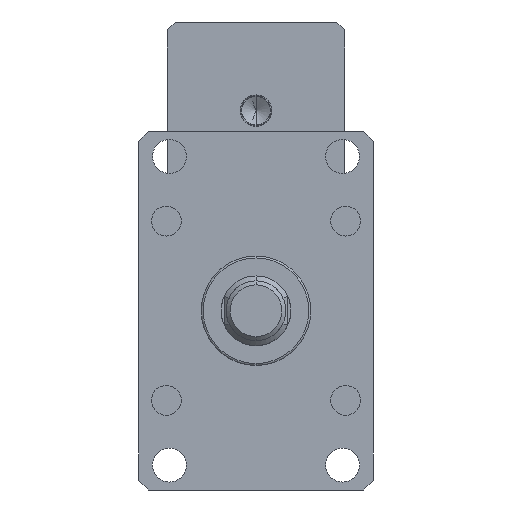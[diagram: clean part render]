
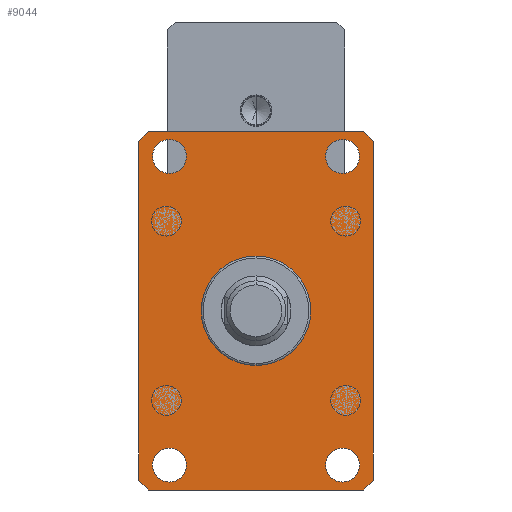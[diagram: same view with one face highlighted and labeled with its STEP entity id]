
A CAD part, front view. The second image highlights one B-rep face of the part: STEP entity #9044.
In plain terms, the highlighted planar face has unit normal (0, -1, 0).
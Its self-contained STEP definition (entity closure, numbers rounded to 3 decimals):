
#29 = AXIS2_PLACEMENT_3D ( 'NONE', #6063, #245, #7022 ) ;
#93 = FACE_OUTER_BOUND ( 'NONE', #8447, .T. ) ;
#164 = AXIS2_PLACEMENT_3D ( 'NONE', #5643, #12425, #6610 ) ;
#182 = CARTESIAN_POINT ( 'NONE',  ( -59., -55., -85. ) ) ;
#245 = DIRECTION ( 'NONE',  ( 0., -1., 0. ) ) ;
#249 = CARTESIAN_POINT ( 'NONE',  ( 54., -55., -90. ) ) ;
#274 = DIRECTION ( 'NONE',  ( 0., 0., -1. ) ) ;
#359 = EDGE_CURVE ( 'NONE', #656, #10764, #11468, .T. ) ;
#434 = VERTEX_POINT ( 'NONE', #1050 ) ;
#656 = VERTEX_POINT ( 'NONE', #5122 ) ;
#678 = CIRCLE ( 'NONE', #164, 8.5 ) ;
#913 = CIRCLE ( 'NONE', #10188, 8.5 ) ;
#1014 = DIRECTION ( 'NONE',  ( 0., 0., 1. ) ) ;
#1050 = CARTESIAN_POINT ( 'NONE',  ( -59., -55., 85. ) ) ;
#1065 = CARTESIAN_POINT ( 'NONE',  ( 54., -55., 90. ) ) ;
#1172 = ORIENTED_EDGE ( 'NONE', *, *, #3239, .T. ) ;
#1375 = CARTESIAN_POINT ( 'NONE',  ( 43.5, -55., -77.5 ) ) ;
#1399 = VECTOR ( 'NONE', #6728, 1000. ) ;
#1461 = VERTEX_POINT ( 'NONE', #5134 ) ;
#1483 = CARTESIAN_POINT ( 'NONE',  ( -54., -55., -90. ) ) ;
#1531 = CARTESIAN_POINT ( 'NONE',  ( 59., -55., -85. ) ) ;
#1742 = ORIENTED_EDGE ( 'NONE', *, *, #3706, .F. ) ;
#1802 = EDGE_CURVE ( 'NONE', #10764, #434, #4975, .T. ) ;
#2300 = LINE ( 'NONE', #3272, #6836 ) ;
#2391 = DIRECTION ( 'NONE',  ( 0., 0., 1. ) ) ;
#2489 = DIRECTION ( 'NONE',  ( 1., 0., 0. ) ) ;
#2557 = AXIS2_PLACEMENT_3D ( 'NONE', #3675, #10423, #4637 ) ;
#2561 = CARTESIAN_POINT ( 'NONE',  ( -59., -55., -85. ) ) ;
#2609 = LINE ( 'NONE', #182, #10013 ) ;
#2624 = ORIENTED_EDGE ( 'NONE', *, *, #7142, .T. ) ;
#2634 = VERTEX_POINT ( 'NONE', #249 ) ;
#2667 = VERTEX_POINT ( 'NONE', #6192 ) ;
#2696 = FACE_BOUND ( 'NONE', #9829, .T. ) ;
#2700 = CIRCLE ( 'NONE', #29, 8.5 ) ;
#2783 = CARTESIAN_POINT ( 'NONE',  ( -43.5, -55., 77.5 ) ) ;
#2889 = EDGE_CURVE ( 'NONE', #2634, #10974, #5043, .T. ) ;
#2931 = VERTEX_POINT ( 'NONE', #4733 ) ;
#2933 = EDGE_LOOP ( 'NONE', ( #8197, #10436 ) ) ;
#2937 = DIRECTION ( 'NONE',  ( 0., 1., 0. ) ) ;
#3026 = CARTESIAN_POINT ( 'NONE',  ( -54., -55., 90. ) ) ;
#3039 = EDGE_CURVE ( 'NONE', #10974, #9266, #8958, .T. ) ;
#3086 = CARTESIAN_POINT ( 'NONE',  ( 59., -55., 85. ) ) ;
#3153 = EDGE_CURVE ( 'NONE', #11735, #7543, #2609, .T. ) ;
#3239 = EDGE_CURVE ( 'NONE', #434, #11735, #2300, .T. ) ;
#3272 = CARTESIAN_POINT ( 'NONE',  ( -59., -55., 85. ) ) ;
#3337 = EDGE_CURVE ( 'NONE', #7543, #2634, #3383, .T. ) ;
#3383 = LINE ( 'NONE', #1483, #10773 ) ;
#3443 = CARTESIAN_POINT ( 'NONE',  ( 59., -55., 85. ) ) ;
#3546 = EDGE_CURVE ( 'NONE', #9266, #656, #10922, .T. ) ;
#3675 = CARTESIAN_POINT ( 'NONE',  ( 43.5, -55., 77.5 ) ) ;
#3690 = CARTESIAN_POINT ( 'NONE',  ( 59., -55., -85. ) ) ;
#3706 = EDGE_CURVE ( 'NONE', #12071, #2667, #9416, .T. ) ;
#3793 = DIRECTION ( 'NONE',  ( 0., 0., -1. ) ) ;
#3910 = CIRCLE ( 'NONE', #7255, 8.5 ) ;
#3917 = CARTESIAN_POINT ( 'NONE',  ( -43.5, -55., -77.5 ) ) ;
#3919 = VERTEX_POINT ( 'NONE', #8999 ) ;
#3927 = ORIENTED_EDGE ( 'NONE', *, *, #359, .T. ) ;
#4401 = DIRECTION ( 'NONE',  ( 0., -1., 0. ) ) ;
#4505 = EDGE_LOOP ( 'NONE', ( #12119, #1742 ) ) ;
#4637 = DIRECTION ( 'NONE',  ( 0., 0., -1. ) ) ;
#4657 = DIRECTION ( 'NONE',  ( 0.707, 0., 0.707 ) ) ;
#4717 = AXIS2_PLACEMENT_3D ( 'NONE', #8717, #2937, #9706 ) ;
#4733 = CARTESIAN_POINT ( 'NONE',  ( -43.5, -55., -86. ) ) ;
#4751 = PLANE ( 'NONE',  #7803 ) ;
#4869 = DIRECTION ( 'NONE',  ( 0., 0., 1. ) ) ;
#4939 = ORIENTED_EDGE ( 'NONE', *, *, #11890, .T. ) ;
#4975 = LINE ( 'NONE', #7167, #9812 ) ;
#5040 = DIRECTION ( 'NONE',  ( 0.707, 0., -0.707 ) ) ;
#5043 = LINE ( 'NONE', #3690, #7884 ) ;
#5064 = EDGE_CURVE ( 'NONE', #2667, #12071, #2700, .T. ) ;
#5122 = CARTESIAN_POINT ( 'NONE',  ( 54., -55., 90. ) ) ;
#5134 = CARTESIAN_POINT ( 'NONE',  ( -43.5, -55., -69. ) ) ;
#5200 = CARTESIAN_POINT ( 'NONE',  ( -43.5, -55., 69. ) ) ;
#5643 = CARTESIAN_POINT ( 'NONE',  ( -43.5, -55., -77.5 ) ) ;
#5988 = ORIENTED_EDGE ( 'NONE', *, *, #7477, .T. ) ;
#6063 = CARTESIAN_POINT ( 'NONE',  ( 43.5, -55., 77.5 ) ) ;
#6169 = FACE_BOUND ( 'NONE', #2933, .T. ) ;
#6192 = CARTESIAN_POINT ( 'NONE',  ( 43.5, -55., 86. ) ) ;
#6509 = AXIS2_PLACEMENT_3D ( 'NONE', #1375, #8159, #2391 ) ;
#6610 = DIRECTION ( 'NONE',  ( 0., 0., 1. ) ) ;
#6625 = ORIENTED_EDGE ( 'NONE', *, *, #3337, .T. ) ;
#6691 = CARTESIAN_POINT ( 'NONE',  ( -54., -55., -90. ) ) ;
#6693 = CIRCLE ( 'NONE', #4717, 8.5 ) ;
#6695 = EDGE_CURVE ( 'NONE', #3919, #11152, #7369, .T. ) ;
#6728 = DIRECTION ( 'NONE',  ( -1., 0., 0. ) ) ;
#6836 = VECTOR ( 'NONE', #274, 1000. ) ;
#6845 = DIRECTION ( 'NONE',  ( 0., 1., 0. ) ) ;
#6881 = ORIENTED_EDGE ( 'NONE', *, *, #3039, .T. ) ;
#6961 = DIRECTION ( 'NONE',  ( 0., 0., 1. ) ) ;
#7022 = DIRECTION ( 'NONE',  ( 0., 0., -1. ) ) ;
#7142 = EDGE_CURVE ( 'NONE', #11353, #11302, #8884, .T. ) ;
#7167 = CARTESIAN_POINT ( 'NONE',  ( -59., -55., 85. ) ) ;
#7255 = AXIS2_PLACEMENT_3D ( 'NONE', #2783, #9561, #3793 ) ;
#7300 = ORIENTED_EDGE ( 'NONE', *, *, #3546, .T. ) ;
#7369 = CIRCLE ( 'NONE', #7620, 8.5 ) ;
#7477 = EDGE_CURVE ( 'NONE', #2931, #1461, #678, .T. ) ;
#7543 = VERTEX_POINT ( 'NONE', #6691 ) ;
#7620 = AXIS2_PLACEMENT_3D ( 'NONE', #10156, #4401, #11156 ) ;
#7803 = AXIS2_PLACEMENT_3D ( 'NONE', #11709, #6845, #1014 ) ;
#7852 = DIRECTION ( 'NONE',  ( -0.707, 0., 0.707 ) ) ;
#7884 = VECTOR ( 'NONE', #4657, 1000. ) ;
#7930 = CARTESIAN_POINT ( 'NONE',  ( 43.5, -55., 69. ) ) ;
#8110 = FACE_BOUND ( 'NONE', #8221, .T. ) ;
#8159 = DIRECTION ( 'NONE',  ( 0., 1., 0. ) ) ;
#8197 = ORIENTED_EDGE ( 'NONE', *, *, #6695, .F. ) ;
#8221 = EDGE_LOOP ( 'NONE', ( #4939, #2624 ) ) ;
#8323 = VECTOR ( 'NONE', #7852, 1000. ) ;
#8341 = CARTESIAN_POINT ( 'NONE',  ( 43.5, -55., -69. ) ) ;
#8447 = EDGE_LOOP ( 'NONE', ( #3927, #11866, #1172, #12481, #6625, #10517, #6881, #7300 ) ) ;
#8717 = CARTESIAN_POINT ( 'NONE',  ( 43.5, -55., -77.5 ) ) ;
#8884 = CIRCLE ( 'NONE', #6509, 8.5 ) ;
#8958 = LINE ( 'NONE', #3086, #11258 ) ;
#8999 = CARTESIAN_POINT ( 'NONE',  ( -43.5, -55., 86. ) ) ;
#9044 = ADVANCED_FACE ( 'NONE', ( #6169, #8110, #2696, #93, #10090 ), #4751, .F. ) ;
#9266 = VERTEX_POINT ( 'NONE', #3443 ) ;
#9416 = CIRCLE ( 'NONE', #2557, 8.5 ) ;
#9474 = CARTESIAN_POINT ( 'NONE',  ( 43.5, -55., -86. ) ) ;
#9561 = DIRECTION ( 'NONE',  ( 0., -1., 0. ) ) ;
#9706 = DIRECTION ( 'NONE',  ( 0., 0., 1. ) ) ;
#9812 = VECTOR ( 'NONE', #10093, 1000. ) ;
#9829 = EDGE_LOOP ( 'NONE', ( #11823, #5988 ) ) ;
#10013 = VECTOR ( 'NONE', #5040, 1000. ) ;
#10090 = FACE_BOUND ( 'NONE', #4505, .T. ) ;
#10093 = DIRECTION ( 'NONE',  ( -0.707, 0., -0.707 ) ) ;
#10156 = CARTESIAN_POINT ( 'NONE',  ( -43.5, -55., 77.5 ) ) ;
#10188 = AXIS2_PLACEMENT_3D ( 'NONE', #3917, #10650, #4869 ) ;
#10255 = EDGE_CURVE ( 'NONE', #11152, #3919, #3910, .T. ) ;
#10423 = DIRECTION ( 'NONE',  ( 0., -1., 0. ) ) ;
#10436 = ORIENTED_EDGE ( 'NONE', *, *, #10255, .F. ) ;
#10517 = ORIENTED_EDGE ( 'NONE', *, *, #2889, .T. ) ;
#10650 = DIRECTION ( 'NONE',  ( 0., 1., 0. ) ) ;
#10698 = CARTESIAN_POINT ( 'NONE',  ( -54., -55., 90. ) ) ;
#10764 = VERTEX_POINT ( 'NONE', #3026 ) ;
#10773 = VECTOR ( 'NONE', #2489, 1000. ) ;
#10922 = LINE ( 'NONE', #1065, #8323 ) ;
#10974 = VERTEX_POINT ( 'NONE', #1531 ) ;
#11152 = VERTEX_POINT ( 'NONE', #5200 ) ;
#11156 = DIRECTION ( 'NONE',  ( 0., 0., -1. ) ) ;
#11258 = VECTOR ( 'NONE', #6961, 1000. ) ;
#11302 = VERTEX_POINT ( 'NONE', #8341 ) ;
#11353 = VERTEX_POINT ( 'NONE', #9474 ) ;
#11468 = LINE ( 'NONE', #10698, #1399 ) ;
#11709 = CARTESIAN_POINT ( 'NONE',  ( 59., -55., 90. ) ) ;
#11735 = VERTEX_POINT ( 'NONE', #2561 ) ;
#11823 = ORIENTED_EDGE ( 'NONE', *, *, #12552, .T. ) ;
#11866 = ORIENTED_EDGE ( 'NONE', *, *, #1802, .T. ) ;
#11890 = EDGE_CURVE ( 'NONE', #11302, #11353, #6693, .T. ) ;
#12071 = VERTEX_POINT ( 'NONE', #7930 ) ;
#12119 = ORIENTED_EDGE ( 'NONE', *, *, #5064, .F. ) ;
#12425 = DIRECTION ( 'NONE',  ( 0., 1., 0. ) ) ;
#12481 = ORIENTED_EDGE ( 'NONE', *, *, #3153, .T. ) ;
#12552 = EDGE_CURVE ( 'NONE', #1461, #2931, #913, .T. ) ;
